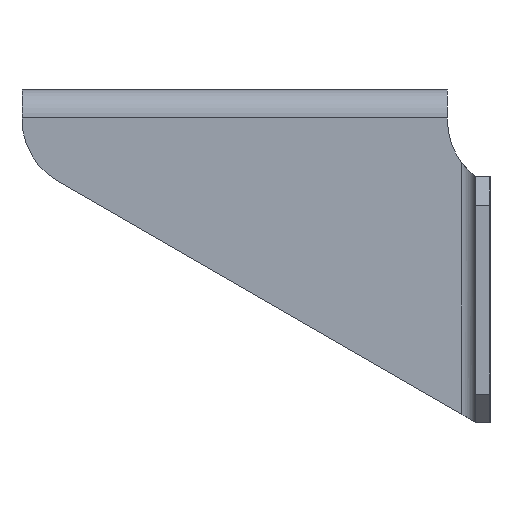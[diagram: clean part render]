
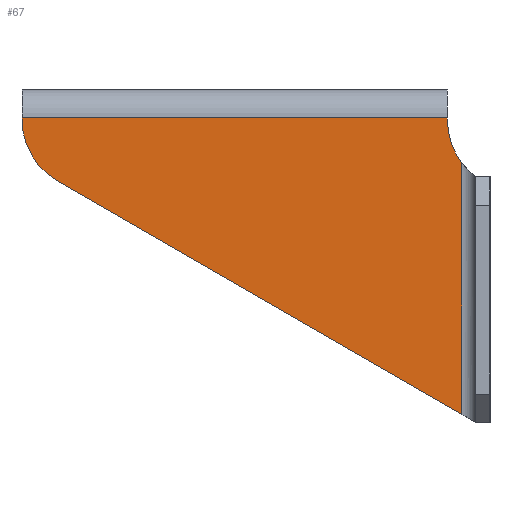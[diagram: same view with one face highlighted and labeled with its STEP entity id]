
A CAD part, left-side view. The second image highlights one B-rep face of the part: STEP entity #67.
In plain terms, the highlighted planar face has unit normal (-1, 0, 0).
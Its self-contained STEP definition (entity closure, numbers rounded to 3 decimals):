
#10 = CARTESIAN_POINT ( 'NONE',  ( 0., 47.5, 53.557 ) ) ;
#18 = ORIENTED_EDGE ( 'NONE', *, *, #705, .T. ) ;
#20 = DIRECTION ( 'NONE',  ( 0., 0., -1. ) ) ;
#67 = ADVANCED_FACE ( 'NONE', ( #1390 ), #1586, .F. ) ;
#92 = CARTESIAN_POINT ( 'NONE',  ( 0., 20., 60. ) ) ;
#113 = CIRCLE ( 'NONE', #409, 5. ) ;
#155 = ORIENTED_EDGE ( 'NONE', *, *, #319, .T. ) ;
#220 = CARTESIAN_POINT ( 'NONE',  ( 0., 0., 58. ) ) ;
#241 = LINE ( 'NONE', #1483, #1055 ) ;
#249 = CARTESIAN_POINT ( 'NONE',  ( 0., 50., 58. ) ) ;
#319 = EDGE_CURVE ( 'NONE', #1141, #1405, #1610, .T. ) ;
#358 = DIRECTION ( 'NONE',  ( 0., 1., 0. ) ) ;
#385 = VERTEX_POINT ( 'NONE', #601 ) ;
#402 = ORIENTED_EDGE ( 'NONE', *, *, #919, .T. ) ;
#409 = AXIS2_PLACEMENT_3D ( 'NONE', #419, #961, #945 ) ;
#416 = EDGE_CURVE ( 'NONE', #385, #1141, #1270, .T. ) ;
#419 = CARTESIAN_POINT ( 'NONE',  ( 0., 45., 57.887 ) ) ;
#452 = CARTESIAN_POINT ( 'NONE',  ( 0., 0., 60. ) ) ;
#456 = AXIS2_PLACEMENT_3D ( 'NONE', #1264, #581, #20 ) ;
#492 = CARTESIAN_POINT ( 'NONE',  ( 0., 20., 58. ) ) ;
#548 = VERTEX_POINT ( 'NONE', #1062 ) ;
#564 = EDGE_CURVE ( 'NONE', #1297, #626, #113, .T. ) ;
#581 = DIRECTION ( 'NONE',  ( 1., 0., 0. ) ) ;
#601 = CARTESIAN_POINT ( 'NONE',  ( 0., 20., 57.845 ) ) ;
#603 = CARTESIAN_POINT ( 'NONE',  ( 0., 50., 60. ) ) ;
#604 = EDGE_CURVE ( 'NONE', #548, #385, #1237, .T. ) ;
#614 = LINE ( 'NONE', #603, #1645 ) ;
#626 = VERTEX_POINT ( 'NONE', #10 ) ;
#629 = DIRECTION ( 'NONE',  ( 0., 0., -1. ) ) ;
#640 = DIRECTION ( 'NONE',  ( 0., 0., 1. ) ) ;
#705 = EDGE_CURVE ( 'NONE', #905, #548, #1406, .T. ) ;
#725 = CARTESIAN_POINT ( 'NONE',  ( 0., 19., 60. ) ) ;
#887 = VECTOR ( 'NONE', #1459, 1000. ) ;
#901 = AXIS2_PLACEMENT_3D ( 'NONE', #452, #1127, #1696 ) ;
#905 = VERTEX_POINT ( 'NONE', #1302 ) ;
#919 = EDGE_CURVE ( 'NONE', #1405, #1297, #614, .T. ) ;
#945 = DIRECTION ( 'NONE',  ( 0., 0., -1. ) ) ;
#961 = DIRECTION ( 'NONE',  ( -1., 0., 0. ) ) ;
#1055 = VECTOR ( 'NONE', #1368, 1000. ) ;
#1062 = CARTESIAN_POINT ( 'NONE',  ( 0., 19., 54.845 ) ) ;
#1073 = CARTESIAN_POINT ( 'NONE',  ( 0., 50., 57.887 ) ) ;
#1081 = ORIENTED_EDGE ( 'NONE', *, *, #564, .T. ) ;
#1127 = DIRECTION ( 'NONE',  ( 1., 0., 0. ) ) ;
#1141 = VERTEX_POINT ( 'NONE', #492 ) ;
#1237 = CIRCLE ( 'NONE', #456, 5. ) ;
#1243 = VECTOR ( 'NONE', #640, 1000. ) ;
#1264 = CARTESIAN_POINT ( 'NONE',  ( 0., 15., 57.845 ) ) ;
#1270 = LINE ( 'NONE', #92, #1243 ) ;
#1297 = VERTEX_POINT ( 'NONE', #1073 ) ;
#1302 = CARTESIAN_POINT ( 'NONE',  ( 0., 19., 37.102 ) ) ;
#1368 = DIRECTION ( 'NONE',  ( 0., -0.866, -0.5 ) ) ;
#1370 = EDGE_CURVE ( 'NONE', #626, #905, #241, .T. ) ;
#1390 = FACE_OUTER_BOUND ( 'NONE', #1395, .T. ) ;
#1395 = EDGE_LOOP ( 'NONE', ( #402, #1081, #1621, #18, #1565, #1655, #155 ) ) ;
#1405 = VERTEX_POINT ( 'NONE', #249 ) ;
#1406 = LINE ( 'NONE', #725, #887 ) ;
#1459 = DIRECTION ( 'NONE',  ( 0., 0., 1. ) ) ;
#1483 = CARTESIAN_POINT ( 'NONE',  ( 0., 50., 55. ) ) ;
#1565 = ORIENTED_EDGE ( 'NONE', *, *, #604, .T. ) ;
#1586 = PLANE ( 'NONE',  #901 ) ;
#1610 = LINE ( 'NONE', #220, #1620 ) ;
#1620 = VECTOR ( 'NONE', #358, 1000. ) ;
#1621 = ORIENTED_EDGE ( 'NONE', *, *, #1370, .T. ) ;
#1645 = VECTOR ( 'NONE', #629, 1000. ) ;
#1655 = ORIENTED_EDGE ( 'NONE', *, *, #416, .T. ) ;
#1696 = DIRECTION ( 'NONE',  ( 0., 0., -1. ) ) ;
